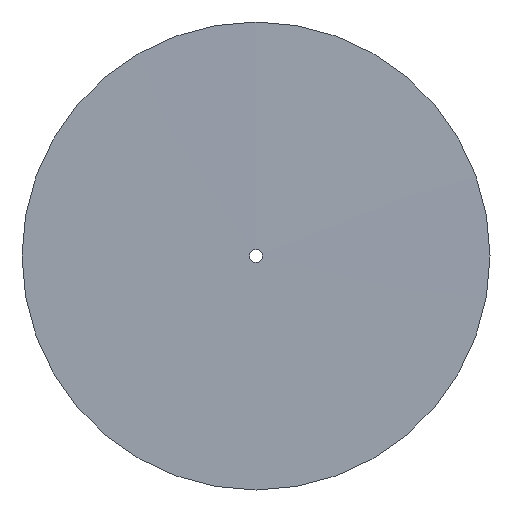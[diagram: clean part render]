
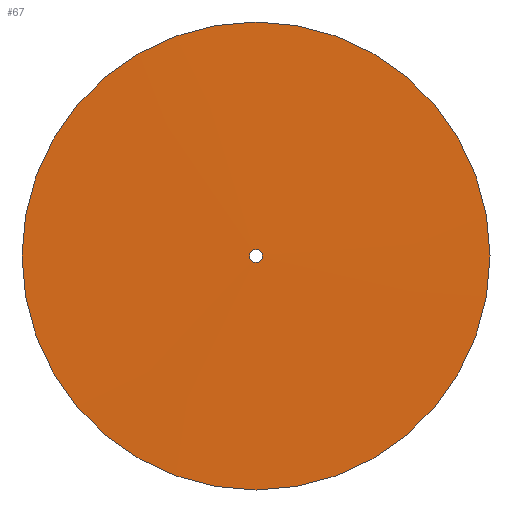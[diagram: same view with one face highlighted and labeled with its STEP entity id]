
A CAD part, front view. The second image highlights one B-rep face of the part: STEP entity #67.
In plain terms, the highlighted conical face has half-angle 89.645 degrees and reference radius 316 mm.
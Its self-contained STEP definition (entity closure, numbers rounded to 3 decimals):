
#17=FACE_OUTER_BOUND('',#21,.T.);
#21=EDGE_LOOP('',(#49,#50,#51,#52));
#25=LINE('',#129,#29);
#29=VECTOR('',#108,316.);
#33=CIRCLE('',#95,615.);
#34=CIRCLE('',#96,17.);
#37=VERTEX_POINT('',#126);
#38=VERTEX_POINT('',#128);
#41=EDGE_CURVE('',#37,#37,#33,.T.);
#42=EDGE_CURVE('',#37,#38,#25,.T.);
#43=EDGE_CURVE('',#38,#38,#34,.T.);
#49=ORIENTED_EDGE('',*,*,#41,.F.);
#50=ORIENTED_EDGE('',*,*,#42,.T.);
#51=ORIENTED_EDGE('',*,*,#43,.T.);
#52=ORIENTED_EDGE('',*,*,#42,.F.);
#65=CONICAL_SURFACE('',#94,316.,1.565);
#67=ADVANCED_FACE('',(#17),#65,.T.);
#94=AXIS2_PLACEMENT_3D('',#125,#104,#105);
#95=AXIS2_PLACEMENT_3D('',#127,#106,#107);
#96=AXIS2_PLACEMENT_3D('',#130,#109,#110);
#104=DIRECTION('center_axis',(0.,1.,0.));
#105=DIRECTION('ref_axis',(0.,0.,-1.));
#106=DIRECTION('center_axis',(0.,1.,0.));
#107=DIRECTION('ref_axis',(1.,0.,0.));
#108=DIRECTION('',(0.,-0.006,-1.));
#109=DIRECTION('center_axis',(0.,1.,0.));
#110=DIRECTION('ref_axis',(1.,0.,0.));
#125=CARTESIAN_POINT('Origin',(0.,0.6,0.));
#126=CARTESIAN_POINT('',(0.,2.45,615.));
#127=CARTESIAN_POINT('Origin',(0.,2.45,0.));
#128=CARTESIAN_POINT('',(0.,-1.25,17.));
#129=CARTESIAN_POINT('',(0.,0.6,316.));
#130=CARTESIAN_POINT('Origin',(0.,-1.25,0.));
